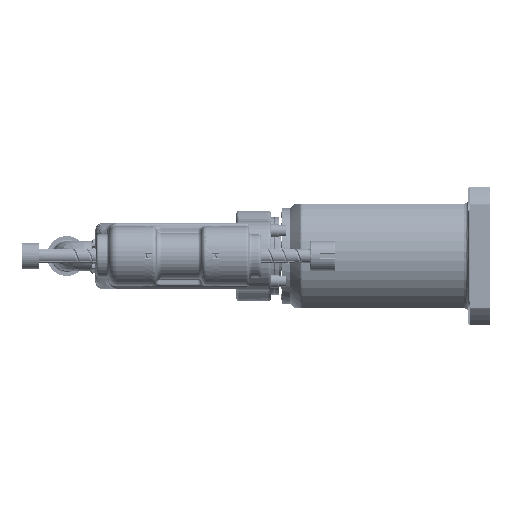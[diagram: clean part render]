
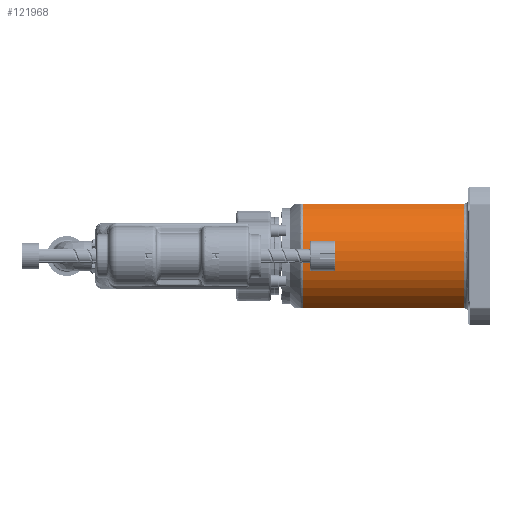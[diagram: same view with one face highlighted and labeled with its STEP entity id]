
A CAD part, left-side view. The second image highlights one B-rep face of the part: STEP entity #121968.
In plain terms, the highlighted cylindrical face has radius 67.5 mm (diameter 135 mm), a partial arc.
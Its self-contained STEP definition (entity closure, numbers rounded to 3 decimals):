
#14589 = CARTESIAN_POINT ( 'NONE',  ( -31.641, 230., -59.904 ) ) ;
#15833 = CARTESIAN_POINT ( 'NONE',  ( -0.533, 215.929, 0. ) ) ;
#16378 = CARTESIAN_POINT ( 'NONE',  ( -31.641, 215.929, -59.904 ) ) ;
#17927 = CARTESIAN_POINT ( 'NONE',  ( -31.641, 215.929, 59.904 ) ) ;
#25723 = LINE ( 'NONE', #14589, #164810 ) ;
#31414 = FACE_OUTER_BOUND ( 'NONE', #169257, .T. ) ;
#37085 = CARTESIAN_POINT ( 'NONE',  ( -31.641, 30., 59.904 ) ) ;
#46034 = ORIENTED_EDGE ( 'NONE', *, *, #125375, .T. ) ;
#49666 = VECTOR ( 'NONE', #70635, 1000. ) ;
#50843 = CARTESIAN_POINT ( 'NONE',  ( -0.533, 230., 0. ) ) ;
#58139 = DIRECTION ( 'NONE',  ( 0., 0., 1. ) ) ;
#58302 = AXIS2_PLACEMENT_3D ( 'NONE', #72652, #139932, #58139 ) ;
#62854 = ORIENTED_EDGE ( 'NONE', *, *, #79741, .T. ) ;
#64048 = EDGE_CURVE ( 'NONE', #95725, #159004, #112081, .T. ) ;
#68885 = AXIS2_PLACEMENT_3D ( 'NONE', #15833, #108864, #122204 ) ;
#69517 = CARTESIAN_POINT ( 'NONE',  ( -31.641, 230., 59.904 ) ) ;
#70635 = DIRECTION ( 'NONE',  ( 0., 1., 0. ) ) ;
#72652 = CARTESIAN_POINT ( 'NONE',  ( -0.533, 30., 0. ) ) ;
#73992 = VERTEX_POINT ( 'NONE', #16378 ) ;
#79304 = CYLINDRICAL_SURFACE ( 'NONE', #133287, 67.5 ) ;
#79741 = EDGE_CURVE ( 'NONE', #73992, #171456, #25723, .T. ) ;
#81458 = CIRCLE ( 'NONE', #68885, 67.5 ) ;
#91335 = CIRCLE ( 'NONE', #58302, 67.5 ) ;
#95725 = VERTEX_POINT ( 'NONE', #37085 ) ;
#108779 = DIRECTION ( 'NONE',  ( 0., -1., 0. ) ) ;
#108864 = DIRECTION ( 'NONE',  ( 0., -1., 0. ) ) ;
#112081 = LINE ( 'NONE', #69517, #49666 ) ;
#117152 = DIRECTION ( 'NONE',  ( 0., 1., 0. ) ) ;
#121968 = ADVANCED_FACE ( 'N', ( #31414 ), #79304, .T. ) ;
#122204 = DIRECTION ( 'NONE',  ( 0., 0., 1. ) ) ;
#125375 = EDGE_CURVE ( 'NONE', #171456, #95725, #91335, .T. ) ;
#133287 = AXIS2_PLACEMENT_3D ( 'NONE', #50843, #117152, #142580 ) ;
#139932 = DIRECTION ( 'NONE',  ( 0., 1., 0. ) ) ;
#142580 = DIRECTION ( 'NONE',  ( 0., 0., 1. ) ) ;
#147568 = CARTESIAN_POINT ( 'NONE',  ( -31.641, 30., -59.904 ) ) ;
#150237 = EDGE_CURVE ( 'NONE', #159004, #73992, #81458, .T. ) ;
#154186 = ORIENTED_EDGE ( 'NONE', *, *, #64048, .T. ) ;
#159004 = VERTEX_POINT ( 'NONE', #17927 ) ;
#164656 = ORIENTED_EDGE ( 'NONE', *, *, #150237, .T. ) ;
#164810 = VECTOR ( 'NONE', #108779, 1000. ) ;
#169257 = EDGE_LOOP ( 'NONE', ( #46034, #154186, #164656, #62854 ) ) ;
#171456 = VERTEX_POINT ( 'NONE', #147568 ) ;
